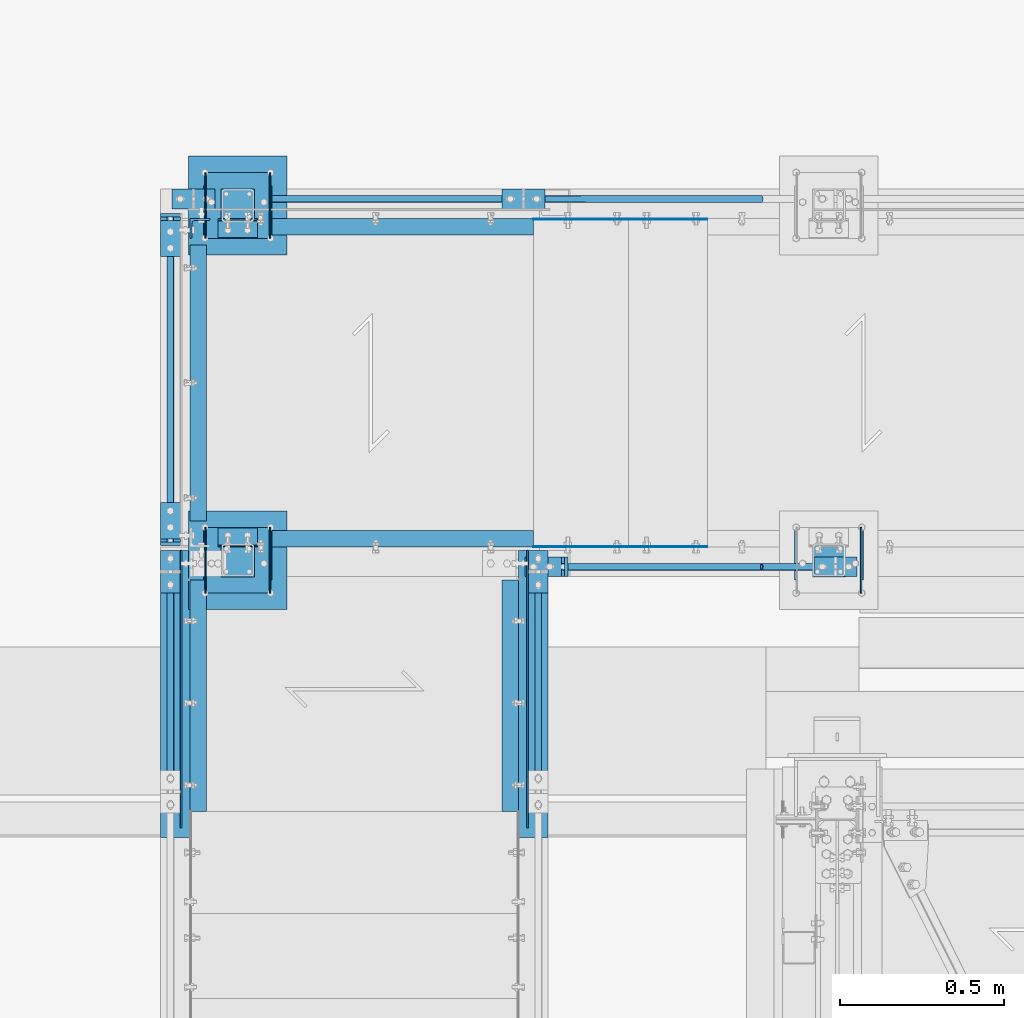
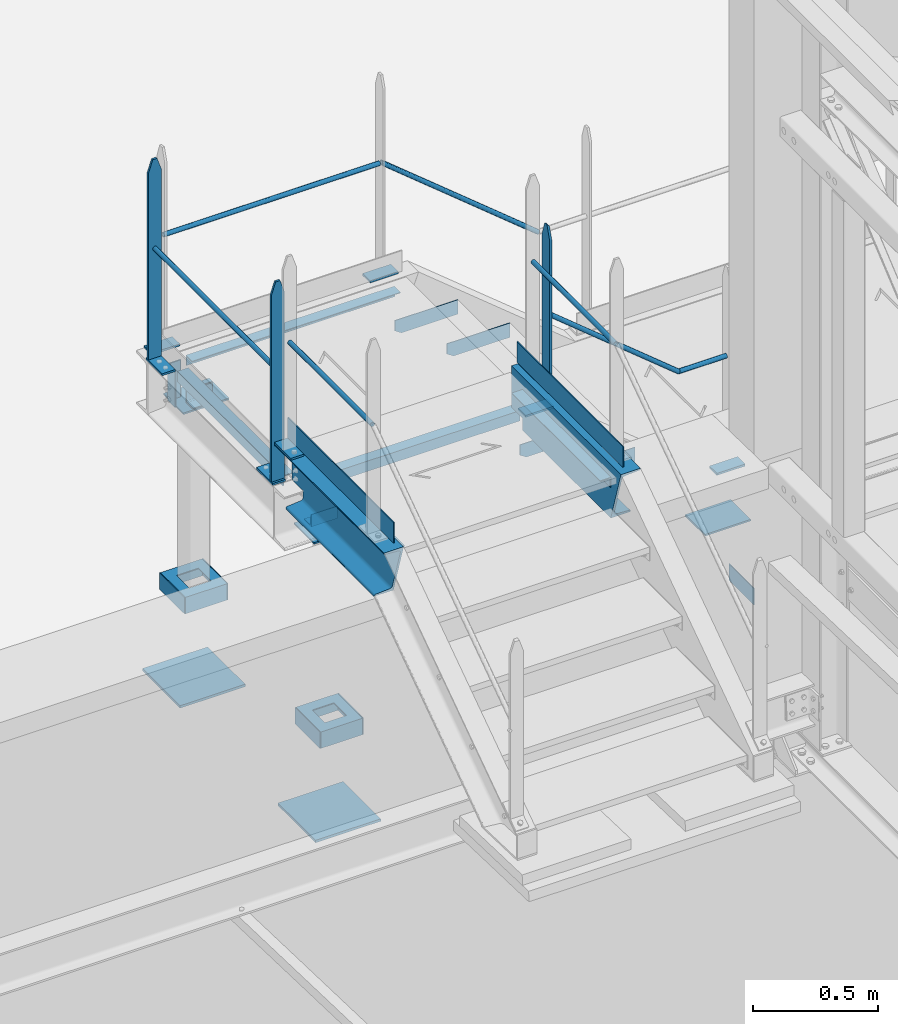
# One storey, part 114 of 362: 44 beams, 2 members, 20 elements without a shape of their own.
"""IFC2X3 building model written with IfcOpenShell, lengths in millimetres."""

import ifcopenshell
import ifcopenshell.guid

model = None  # the IFC model being written
_history = None  # IfcOwnerHistory: only IFC2X3 demands one
_inside = {}  # id of a spatial element -> (the spatial element, [elements in it])
_under = {}  # id of a project, library or spatial element -> (it, [spatial elements below it])
_declared = {}  # id of a project -> (the project, [libraries it declares])
_typed = {}  # id of a type object -> (the type object, [elements of that type])
_made_of = {}  # id of a material, layer set ... -> (it, [elements and type objects made of it])


def new_model(schema):
    """Start an empty IFC model of exactly this schema.

    Asked for "IFC4X3", IfcOpenShell would pick the latest addendum, in which some entities
    have other attributes; the version numbers below select the first issue.
    IFC2X3 requires an IfcOwnerHistory on every rooted entity: one is made here for all.
    """
    global model, _history
    if schema == "IFC4X3":
        model = ifcopenshell.file(schema_version=(4, 3, 0, 0))
    else:
        model = ifcopenshell.file(schema=schema)
    _inside.clear()
    _under.clear()
    _declared.clear()
    _typed.clear()
    _made_of.clear()
    _history = None
    if model.schema == "IFC2X3":
        org = make("IfcOrganization", Name="unknown")
        user = make(
            "IfcPersonAndOrganization",
            ThePerson=make("IfcPerson", FamilyName="unknown"),
            TheOrganization=org,
        )
        app = make(
            "IfcApplication",
            ApplicationDeveloper=org,
            Version="unknown",
            ApplicationFullName="unknown",
            ApplicationIdentifier="unknown",
        )
        _history = make(
            "IfcOwnerHistory",
            OwningUser=user,
            OwningApplication=app,
            ChangeAction="ADDED",
            CreationDate=0,
        )
    return model


def make(cls, **values):
    """One entity of the class cls with the attributes given. An attribute that is None is left unset."""
    return model.create_entity(
        cls, **{name: value for name, value in values.items() if value is not None}
    )


def rooted(cls, **values):
    """An entity with a GlobalId (a new one), such as an element, a storey or a relation."""
    return make(cls, GlobalId=ifcopenshell.guid.new(), OwnerHistory=_history, **values)


def si_unit(unit_type, name, prefix=None):
    """IfcSIUnit, for example si_unit("LENGTHUNIT", "METRE", prefix="MILLI")."""
    return make("IfcSIUnit", UnitType=unit_type, Prefix=prefix, Name=name)


def assignment(units):
    """IfcUnitAssignment: the units of a project."""
    return None if units is None else make("IfcUnitAssignment", Units=units)


def point(xyz):
    """IfcCartesianPoint."""
    return None if xyz is None else make("IfcCartesianPoint", Coordinates=xyz)


def direction(xyz):
    """IfcDirection."""
    return None if xyz is None else make("IfcDirection", DirectionRatios=xyz)


def frame(location, z_axis=None, x_axis=None):
    """IfcAxis2Placement3D, a coordinate frame: its origin and axes. An axis left out is left unset."""
    return make(
        "IfcAxis2Placement3D",
        Location=point(location),
        Axis=direction(z_axis),
        RefDirection=direction(x_axis),
    )


def frame_2d(location, x_axis=None):
    """IfcAxis2Placement2D, a coordinate frame in the plane: its origin and x axis."""
    return make(
        "IfcAxis2Placement2D", Location=point(location), RefDirection=direction(x_axis)
    )


def origin_with_axes():
    """The frame at (0, 0, 0) with the z axis (0, 0, 1) and the x axis (1, 0, 0) written out."""
    return frame((0.0, 0.0, 0.0), z_axis=(0.0, 0.0, 1.0), x_axis=(1.0, 0.0, 0.0))


def origin_2d_with_axis():
    """The frame at (0, 0) in the plane with the x axis (1, 0) written out."""
    return frame_2d((0.0, 0.0), x_axis=(1.0, 0.0))


def place(relative_to, where):
    """IfcLocalPlacement: puts the frame where relative to a parent placement (None: the world)."""
    return make(
        "IfcLocalPlacement", PlacementRelTo=relative_to, RelativePlacement=where
    )


def context(
    kind, dimensions, precision=None, world=None, true_north=None, identifier=None
):
    """IfcGeometricRepresentationContext, for example the 3D "Model" context."""
    return make(
        "IfcGeometricRepresentationContext",
        ContextIdentifier=identifier,
        ContextType=kind,
        CoordinateSpaceDimension=dimensions,
        Precision=precision,
        WorldCoordinateSystem=world,
        TrueNorth=true_north,
    )


def subcontext(parent, identifier, kind, view, scale=None):
    """IfcGeometricRepresentationSubContext, for example "Body" below "Model"."""
    return make(
        "IfcGeometricRepresentationSubContext",
        ContextIdentifier=identifier,
        ContextType=kind,
        ParentContext=parent,
        TargetScale=scale,
        TargetView=view,
    )


def project(units=None, contexts=None):
    """IfcProject with its units and contexts."""
    return rooted(
        "IfcProject",
        Name="project",
        RepresentationContexts=contexts,
        UnitsInContext=assignment(units),
    )


def spatial(cls, under=None, at=None, **own):
    """A site, building, storey or space (cls), placed at a placement, below another one or the project."""
    s = rooted(cls, ObjectPlacement=at, **own)
    if under is not None:
        _under.setdefault(under.id(), (under, []))[1].append(s)
    return s


def polyline(points):
    """IfcPolyline through the points."""
    return make("IfcPolyline", Points=[point(p) for p in points])


def profile(cls, at=None, kind="AREA", **sizes):
    """A parametric profile (cls). Its sizes go by their IFC names, for example OverallWidth=200.0."""
    return make(cls, ProfileType=kind, Position=at, **sizes)


def rectangle(**sizes):
    """IfcRectangleProfileDef."""
    return profile("IfcRectangleProfileDef", **sizes)


def hollow_circle(**sizes):
    """IfcCircleHollowProfileDef."""
    return profile("IfcCircleHollowProfileDef", **sizes)


def l_section(**sizes):
    """IfcLShapeProfileDef."""
    return profile("IfcLShapeProfileDef", **sizes)


def u_section(**sizes):
    """IfcUShapeProfileDef."""
    return profile("IfcUShapeProfileDef", **sizes)


def outline(outer, holes=None, kind="AREA"):
    """IfcArbitraryClosedProfileDef: a profile drawn as a closed curve; with holes, ...WithVoids."""
    if holes is None:
        return make("IfcArbitraryClosedProfileDef", ProfileType=kind, OuterCurve=outer)
    return make(
        "IfcArbitraryProfileDefWithVoids",
        ProfileType=kind,
        OuterCurve=outer,
        InnerCurves=holes,
    )


def extrude(swept, where, along, depth):
    """IfcExtrudedAreaSolid: the profile swept, set in the frame where, extruded along a direction by depth."""
    return make(
        "IfcExtrudedAreaSolid",
        SweptArea=swept,
        Position=where,
        ExtrudedDirection=direction(along),
        Depth=depth,
    )


def boolean(op, a, b):
    """IfcBooleanResult of two solids."""
    return make("IfcBooleanResult", Operator=op, FirstOperand=a, SecondOperand=b)


def clip(a, b, op="DIFFERENCE"):
    """IfcBooleanClippingResult: the solid a cut by the half space b."""
    return make(
        "IfcBooleanClippingResult", Operator=op, FirstOperand=a, SecondOperand=b
    )


def halfspace(plane, agree):
    """IfcHalfSpaceSolid: all space on one side of the plane z = 0 of the frame plane."""
    return make(
        "IfcHalfSpaceSolid",
        BaseSurface=make("IfcPlane", Position=plane),
        AgreementFlag=agree,
    )


def shape(context_of_items, identifier, shape_type, items):
    """IfcShapeRepresentation: the items that make up one representation, for example the "Body"."""
    return make(
        "IfcShapeRepresentation",
        ContextOfItems=context_of_items,
        RepresentationIdentifier=identifier,
        RepresentationType=shape_type,
        Items=items,
    )


def material(Name=None, Category=None):
    """IfcMaterial."""
    return make("IfcMaterial", Name=Name, Category=Category)


def made_of(thing, what):
    """Note that an element or type object is made of a material, layer set ...; save() writes the relation."""
    if what is not None:
        _made_of.setdefault(what.id(), (what, []))[1].append(thing)
    return thing


def type_object(cls, material=None, **own):
    """A type object (cls), such as IfcWallType, which elements share."""
    return made_of(rooted(cls, **own), material)


def element(
    cls,
    number,
    at=None,
    inside=None,
    cuts=None,
    type_object=None,
    material=None,
    context=None,
    identifier="Body",
    shape_type=None,
    held_by="IfcProductDefinitionShape",
    body=None,
    shapes=None,
    **own,
):
    """One element of the class cls, such as IfcWall. Its Tag is "e" and its number.

    at: its placement. inside: the storey or other place that contains it. cuts: it is an
    opening in that element (IfcRelVoidsElement). A single representation is given by context,
    identifier, shape_type and body (its items); several are given by shapes. held_by: the class
    of the entity that holds the representations. save() writes the other relations.
    """
    e = rooted(cls, Tag="e%d" % number, ObjectPlacement=at, **own)
    if body is not None:
        shapes = [shape(context, identifier, shape_type, body)]
    if shapes is not None:
        e.Representation = make(held_by, Representations=shapes)
    if inside is not None:
        _inside.setdefault(inside.id(), (inside, []))[1].append(e)
    if cuts is not None:
        rooted(
            "IfcRelVoidsElement", RelatingBuildingElement=cuts, RelatedOpeningElement=e
        )
    if type_object is not None:
        _typed.setdefault(type_object.id(), (type_object, []))[1].append(e)
    return made_of(e, material)


def aggregate(whole, parts):
    """IfcRelAggregates: a whole, such as a stair, and the parts it consists of."""
    return rooted("IfcRelAggregates", RelatingObject=whole, RelatedObjects=parts)


def save(model, path):
    """Write the relations noted so far, then the file.

    IfcRelAggregates (storeys below a building ...), IfcRelContainedInSpatialStructure (elements
    in a storey), IfcRelDefinesByType, IfcRelAssociatesMaterial and IfcRelDeclares: one each for
    every whole, place, type object, material and project.
    """
    for whole, parts in _under.values():
        aggregate(whole, parts)
    for where, things in _inside.values():
        rooted(
            "IfcRelContainedInSpatialStructure",
            RelatedElements=things,
            RelatingStructure=where,
        )
    for kind, things in _typed.values():
        rooted("IfcRelDefinesByType", RelatedObjects=things, RelatingType=kind)
    for what, things in _made_of.values():
        rooted("IfcRelAssociatesMaterial", RelatedObjects=things, RelatingMaterial=what)
    for by, libraries in _declared.values():
        rooted("IfcRelDeclares", RelatingContext=by, RelatedDefinitions=libraries)
    model.write(path)


model = new_model("IFC2X3")

# Units and contexts
model_context = context("Model", 3, precision=1e-05, world=origin_with_axes())
body_context = subcontext(model_context, "Body", "Model", "MODEL_VIEW")
ifc_project = project(units=[si_unit("LENGTHUNIT", "METRE", prefix="MILLI"), si_unit("AREAUNIT", "SQUARE_METRE"), si_unit("VOLUMEUNIT", "CUBIC_METRE"), si_unit("MASSUNIT", "GRAM", prefix="KILO"), si_unit("TIMEUNIT", "SECOND"), si_unit("PLANEANGLEUNIT", "RADIAN"), si_unit("SOLIDANGLEUNIT", "STERADIAN"), si_unit("THERMODYNAMICTEMPERATUREUNIT", "DEGREE_CELSIUS"), si_unit("LUMINOUSINTENSITYUNIT", "LUMEN")], contexts=[model_context])

# Site, building, storey
site_placement = place(None, origin_with_axes())
site = spatial("IfcSite", under=ifc_project, at=site_placement, Name="Undefined", CompositionType="ELEMENT")
building_placement = place(site_placement, origin_with_axes())
building = spatial("IfcBuilding", under=site, at=building_placement, Name="Undefined", CompositionType="ELEMENT")
storey_placement = place(building_placement, origin_with_axes())
storey = spatial("IfcBuildingStorey", under=building, at=storey_placement, Name="Undefined", CompositionType="ELEMENT", Elevation=0.0)

# Assembly, beams
assembly_1_placement = place(storey_placement, origin_with_axes())
assembly_1 = element("IfcElementAssembly", 1, at=assembly_1_placement, inside=storey, Name="MAIN COURANTE", AssemblyPlace="NOTDEFINED", PredefinedType="NOTDEFINED")
ifc_material_1 = material(Name="Undefined/S235-E24")
beam_type_1 = type_object("IfcBeamType", Name="PL10*60", PredefinedType="NOTDEFINED")
beam_1_placement = place(assembly_1_placement, frame((33460.0061849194, 15970.0000882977, 8705.00015961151), z_axis=(0.0, -1.0, 0.0), x_axis=(-1.0, 0.0, 0.0)))
beam_1 = element("IfcBeam", 2, at=beam_1_placement, type_object=beam_type_1, material=ifc_material_1, Name="PLATINE", ObjectType="PL10*60", context=body_context, shape_type="SweptSolid", body=[
    extrude(rectangle(XDim=10.0, YDim=60.0, at=origin_2d_with_axis()), frame((130.0, 0.0, 0.0), z_axis=(-1.0, 0.0, 0.0), x_axis=(0.0, -1.0, 0.0)), (0.0, 0.0, 1.0), 130.0),
])
beam_2_placement = place(assembly_1_placement, frame((33445.0061849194, 15970.0000882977, 9582.39164232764), z_axis=(0.0, 1.0, 0.0), x_axis=(0.0, 0.0, -1.0)))
beam_2 = element("IfcBeam", 3, at=beam_2_placement, type_object=beam_type_1, material=ifc_material_1, Name="MONTANT", ObjectType="PL10*60", context=body_context, shape_type="Clipping", body=[
    clip(clip(clip(extrude(rectangle(XDim=10.0, YDim=60.0, at=origin_2d_with_axis()), frame((872.391482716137, 0.0, 0.0), z_axis=(-1.0, 0.0, 0.0), x_axis=(0.0, -1.0, 0.0)), (0.0, 0.0, 1.0), 876.53), halfspace(frame((-119.99851575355, -5.0, -30.0), z_axis=(-0.316227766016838, 0.0, 0.948683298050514), x_axis=(0.0, 1.0, 0.0)), False)), halfspace(frame((60.0014842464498, -5.0, -30.0), z_axis=(-0.316227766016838, 0.0, -0.948683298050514), x_axis=(0.0, 1.0, 0.0)), False)), halfspace(frame((7.28321514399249, -8.88829265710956, 0.0), z_axis=(0.773488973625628, 0.633809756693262, 0.0), x_axis=(0.0, 0.0, 1.0)), True)),
])
beam_3_placement = place(assembly_1_placement, frame((34340.0061849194, 15970.0000882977, 8114.9999407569), z_axis=(0.0, -1.0, 0.0), x_axis=(-1.0, 0.0, 0.0)))
beam_3 = element("IfcBeam", 4, at=beam_3_placement, type_object=beam_type_1, material=ifc_material_1, Name="PLATINE", ObjectType="PL10*60", context=body_context, shape_type="SweptSolid", body=[
    extrude(rectangle(XDim=10.0, YDim=60.0, at=origin_2d_with_axis()), frame((130.0, 0.0, 0.0), z_axis=(-1.0, 0.0, 0.0), x_axis=(0.0, -1.0, 0.0)), (0.0, 0.0, 1.0), 130.0),
])

assembly_2_placement = place(storey_placement, origin_with_axes())
assembly_2 = element("IfcElementAssembly", 5, at=assembly_2_placement, inside=storey, Name="MAIN COURANTE", AssemblyPlace="NOTDEFINED", PredefinedType="NOTDEFINED")
beam_4_placement = place(assembly_2_placement, frame((33390.0061849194, 17089.9938659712, 8705.00000001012), z_axis=(0.0, 1.0, 0.0), x_axis=(-1.0, 0.0, 0.0)))
beam_4 = element("IfcBeam", 6, at=beam_4_placement, type_object=beam_type_1, material=ifc_material_1, Name="PLATINE", ObjectType="PL10*60", context=body_context, shape_type="SweptSolid", body=[
    extrude(rectangle(XDim=10.0, YDim=60.0, at=origin_2d_with_axis()), frame((130.0, 0.0, 0.0), z_axis=(-1.0, 0.0, 0.0), x_axis=(0.0, -1.0, 0.0)), (0.0, 0.0, 1.0), 130.0),
])
beam_5_placement = place(assembly_2_placement, frame((32384.9961849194, 17089.9938659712, 8705.00000001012), z_axis=(0.0, 1.0, 0.0), x_axis=(-1.0, 0.0, 0.0)))
beam_5 = element("IfcBeam", 7, at=beam_5_placement, type_object=beam_type_1, material=ifc_material_1, Name="PLATINE", ObjectType="PL10*60", context=body_context, shape_type="SweptSolid", body=[
    extrude(rectangle(XDim=10.0, YDim=60.0, at=origin_2d_with_axis()), frame((130.0, 0.0, 0.0), z_axis=(-1.0, 0.0, 0.0), x_axis=(0.0, -1.0, 0.0)), (0.0, 0.0, 1.0), 130.0),
])

assembly_3_placement = place(storey_placement, origin_with_axes())
assembly_3 = element("IfcElementAssembly", 8, at=assembly_3_placement, inside=storey, Name="MAIN COURANTE", AssemblyPlace="NOTDEFINED", PredefinedType="NOTDEFINED")
beam_6_placement = place(assembly_3_placement, frame((32249.9863365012, 16165.0036560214, 8705.00000001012), z_axis=(-1.0, 0.0, 0.0), x_axis=(0.0, -1.0, 0.0)))
beam_6 = element("IfcBeam", 9, at=beam_6_placement, type_object=beam_type_1, material=ifc_material_1, Name="PLATINE", ObjectType="PL10*60", context=body_context, shape_type="SweptSolid", body=[
    extrude(rectangle(XDim=10.0, YDim=60.0, at=origin_2d_with_axis()), frame((130.0, 0.0, 0.0), z_axis=(-1.0, 0.0, 0.0), x_axis=(0.0, -1.0, 0.0)), (0.0, 0.0, 1.0), 130.0),
])
beam_7_placement = place(assembly_3_placement, frame((32249.9862112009, 16050.0036560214, 9677.59999848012), z_axis=(-0.99999999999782, -2.08799999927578e-06, 0.0), x_axis=(0.0, 0.0, -1.0)))
beam_7 = element("IfcBeam", 10, at=beam_7_placement, type_object=beam_type_1, material=ifc_material_1, Name="MONTANT", ObjectType="PL10*60", context=body_context, shape_type="Clipping", body=[
    clip(clip(extrude(rectangle(XDim=10.0, YDim=60.0, at=origin_2d_with_axis()), frame((967.59999845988, 0.0, 0.0), z_axis=(-1.0, 0.0, 0.0), x_axis=(0.0, -1.0, 0.0)), (0.0, 0.0, 1.0), 967.6), halfspace(frame((-119.999937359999, -4.99999999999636, -30.0), z_axis=(-0.316227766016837, -1.98085072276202e-06, 0.948683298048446), x_axis=(-6.26399999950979e-06, 0.999999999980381, -3.63797880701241e-15)), False)), halfspace(frame((60.0, -5.0, -30.0), z_axis=(-0.316227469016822, 1.98084886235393e-06, -0.948683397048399), x_axis=(6.26399999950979e-06, 0.999999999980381, -3.63797880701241e-15)), False)),
])
beam_8_placement = place(assembly_3_placement, frame((32249.9863365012, 17044.9977309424, 8705.00000001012), z_axis=(-1.0, 0.0, 0.0), x_axis=(0.0, -1.0, 0.0)))
beam_8 = element("IfcBeam", 11, at=beam_8_placement, type_object=beam_type_1, material=ifc_material_1, Name="PLATINE", ObjectType="PL10*60", context=body_context, shape_type="SweptSolid", body=[
    extrude(rectangle(XDim=10.0, YDim=60.0, at=origin_2d_with_axis()), frame((130.0, 0.0, 0.0), z_axis=(-1.0, 0.0, 0.0), x_axis=(0.0, -1.0, 0.0)), (0.0, 0.0, 1.0), 130.0),
])
beam_9_placement = place(assembly_3_placement, frame((32249.9862112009, 17029.9977309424, 9677.59999848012), z_axis=(-0.99999999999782, -2.08799999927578e-06, 0.0), x_axis=(0.0, 0.0, -1.0)))
beam_9 = element("IfcBeam", 12, at=beam_9_placement, type_object=beam_type_1, material=ifc_material_1, Name="MONTANT", ObjectType="PL10*60", context=body_context, shape_type="Clipping", body=[
    clip(clip(extrude(rectangle(XDim=10.0, YDim=60.0, at=origin_2d_with_axis()), frame((967.59999845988, 0.0, 0.0), z_axis=(-1.0, 0.0, 0.0), x_axis=(0.0, -1.0, 0.0)), (0.0, 0.0, 1.0), 967.6), halfspace(frame((-119.999937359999, -4.99999999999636, -30.0), z_axis=(-0.316227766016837, -1.98085072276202e-06, 0.948683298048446), x_axis=(-6.26399999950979e-06, 0.999999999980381, -3.63797880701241e-15)), False)), halfspace(frame((60.0, -5.0, -30.0), z_axis=(-0.316227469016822, 1.98084886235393e-06, -0.948683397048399), x_axis=(6.26399999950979e-06, 0.999999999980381, -3.63797880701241e-15)), False)),
])

# Assembly, beam
assembly_4_placement = place(storey_placement, origin_with_axes())
assembly_4 = element("IfcElementAssembly", 13, at=assembly_4_placement, inside=storey, Name="MAIN COURANTE", AssemblyPlace="NOTDEFINED", PredefinedType="NOTDEFINED")
beam_10_placement = place(assembly_4_placement, frame((32249.9863365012, 16020.003622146, 8915.0), z_axis=(-1.0, 0.0, 0.0), x_axis=(0.0, -1.0, 0.0)))
beam_10 = element("IfcBeam", 14, at=beam_10_placement, type_object=beam_type_1, material=ifc_material_1, Name="PLATINE", ObjectType="PL10*60", context=body_context, shape_type="SweptSolid", body=[
    extrude(rectangle(XDim=10.0, YDim=60.0, at=origin_2d_with_axis()), frame((130.0, 0.0, 0.0), z_axis=(-1.0, 0.0, 0.0), x_axis=(0.0, -1.0, 0.0)), (0.0, 0.0, 1.0), 130.0),
])

assembly_5_placement = place(storey_placement, origin_with_axes())
assembly_5 = element("IfcElementAssembly", 15, at=assembly_5_placement, inside=storey, Name="MAIN COURANTE", AssemblyPlace="NOTDEFINED", PredefinedType="NOTDEFINED")
beam_11_placement = place(assembly_5_placement, frame((33369.9936634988, 16019.9996684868, 8915.0), z_axis=(1.0, 0.0, 0.0), x_axis=(0.0, -1.0, 0.0)))
beam_11 = element("IfcBeam", 16, at=beam_11_placement, type_object=beam_type_1, material=ifc_material_1, Name="PLATINE", ObjectType="PL10*60", context=body_context, shape_type="SweptSolid", body=[
    extrude(rectangle(XDim=10.0, YDim=60.0, at=origin_2d_with_axis()), frame((130.0, 0.0, 0.0), z_axis=(-1.0, 0.0, 0.0), x_axis=(0.0, -1.0, 0.0)), (0.0, 0.0, 1.0), 130.0),
])

# Beam
beam_type_2 = type_object("IfcBeamType", Name="TUBE-21.3*2", PredefinedType="NOTDEFINED")
beam_12_placement = place(assembly_1_placement, frame((34050.3145397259, 15970.0002031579, 8653.80000001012), z_axis=(0.0, -1.0, 0.0), x_axis=(1.0, 0.0, 0.0)))
beam_12 = element("IfcBeam", 17, at=beam_12_placement, type_object=beam_type_2, material=ifc_material_1, Name="LISSE", ObjectType="TUBE-21.3*2", context=body_context, shape_type="Clipping", body=[
    clip(extrude(hollow_circle(Radius=10.64999962, WallThickness=2.0, at=origin_2d_with_axis()), frame((219.691645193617, 1.81898940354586e-12, 0.0), z_axis=(-1.0, 0.0, 0.0), x_axis=(0.0, -1.0, 0.0)), (0.0, 0.0, 1.0), 223.54), halfspace(frame((3.80609846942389, 10.6499996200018, 0.000112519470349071), z_axis=(0.941671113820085, -0.336534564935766, -5.79127735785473e-07), x_axis=(-0.336534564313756, -0.941671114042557, 0.0)), True)),
])

beam_13_placement = place(assembly_2_placement, frame((32324.9961849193, 17089.9946261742, 9243.80000001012), z_axis=(0.0, 1.0, 0.0), x_axis=(1.0, 0.0, 0.0)))
beam_13 = element("IfcBeam", 18, at=beam_13_placement, type_object=beam_type_2, material=ifc_material_1, Name="LISSE", ObjectType="TUBE-21.3*2", context=body_context, shape_type="SweptSolid", body=[
    extrude(hollow_circle(Radius=10.64999962, WallThickness=2.0, at=origin_2d_with_axis()), frame((995.010000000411, 0.0, 5.26753908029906e-20), z_axis=(-1.0, 0.0, 0.0), x_axis=(0.0, -1.0, 0.0)), (0.0, 0.0, 1.0), 995.01),
])

beam_14_placement = place(assembly_5_placement, frame((33369.9936634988, 15290.0038659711, 9438.8), z_axis=(0.999999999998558, -1.69800000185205e-06, 0.0), x_axis=(1.69800000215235e-06, 0.999999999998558, 0.0)))
beam_14 = element("IfcBeam", 19, at=beam_14_placement, type_object=beam_type_2, material=ifc_material_1, Name="LISSE", ObjectType="TUBE-21.3*2", context=body_context, shape_type="SweptSolid", body=[
    extrude(hollow_circle(Radius=10.64999962, WallThickness=2.0, at=origin_2d_with_axis()), frame((659.995802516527, 1.81898940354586e-12, -1.3975954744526e-19), z_axis=(-1.0, 0.0, 0.0), x_axis=(0.0, -1.0, 0.0)), (0.0, 0.0, 1.0), 660.0),
])

beam_15_placement = place(assembly_3_placement, frame((32249.9863365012, 16055.0036560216, 9243.80000001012), z_axis=(-0.99999999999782, -2.08799999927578e-06, 0.0), x_axis=(-1.15500000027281e-06, 0.999999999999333, 0.0)))
beam_15 = element("IfcBeam", 20, at=beam_15_placement, type_object=beam_type_2, material=ifc_material_1, Name="LISSE", ObjectType="TUBE-21.3*2", context=body_context, shape_type="SweptSolid", body=[
    extrude(hollow_circle(Radius=10.64999962, WallThickness=2.0, at=origin_2d_with_axis()), frame((969.994074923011, -1.81898940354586e-12, 0.0), z_axis=(-1.0, 0.0, 0.0), x_axis=(0.0, -1.0, 0.0)), (0.0, 0.0, 1.0), 969.99),
])

aggregate(assembly_3, [beam_6, beam_7, beam_15, beam_8, beam_9])

beam_16_placement = place(assembly_4_placement, frame((32249.9863365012, 15290.0038659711, 9438.8), z_axis=(-0.99999999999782, -2.08799999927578e-06, 0.0), x_axis=(-1.15500000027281e-06, 0.999999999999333, 0.0)))
beam_16 = element("IfcBeam", 21, at=beam_16_placement, type_object=beam_type_2, material=ifc_material_1, Name="LISSE", ObjectType="TUBE-21.3*2", context=body_context, shape_type="SweptSolid", body=[
    extrude(hollow_circle(Radius=10.64999962, WallThickness=2.0, at=origin_2d_with_axis()), frame((659.999756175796, -1.81898940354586e-12, -1.39760384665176e-19), z_axis=(-1.0, 0.0, 0.0), x_axis=(0.0, -1.0, 0.0)), (0.0, 0.0, 1.0), 660.0),
])

# Member
member_type = type_object("IfcMemberType", Name="TUBE-21.3*2", PredefinedType="NOTDEFINED")
member_1_placement = place(assembly_1_placement, frame((34050.3145397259, 15970.0040747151, 8653.80000001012), z_axis=(0.0, 1.0, 0.0), x_axis=(-0.773488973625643, 0.0, 0.633809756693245)))
member_1 = element("IfcMember", 22, at=member_1_placement, type_object=member_type, material=ifc_material_1, Name="LISSE", ObjectType="TUBE-21.3*2", context=body_context, shape_type="Clipping", body=[
    clip(clip(extrude(hollow_circle(Radius=10.64999962, WallThickness=2.0, at=origin_2d_with_axis()), frame((794.709650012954, 0.0, 0.0), z_axis=(-1.0, 0.0, 0.0), x_axis=(0.0, -1.0, 0.0)), (0.0, 0.0, 1.0), 813.31), halfspace(frame((787.048146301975, 13.3552820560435, -0.00398641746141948), z_axis=(-0.773488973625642, 0.633809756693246, 0.0), x_axis=(-0.633809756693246, -0.773488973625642, 0.0)), True)), halfspace(frame((3.80609846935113, 10.6499996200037, -0.00398641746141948), z_axis=(-0.941671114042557, 0.336534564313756, 0.0), x_axis=(-0.336534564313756, -0.941671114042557, 0.0)), False)),
])

aggregate(assembly_1, [beam_1, beam_2, beam_3, member_1, beam_12])

member_2_placement = place(assembly_2_placement, frame((34050.3145397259, 17089.9898795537, 8653.80000001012), z_axis=(0.0, -1.0, 0.0), x_axis=(-0.773488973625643, 0.0, 0.633809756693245)))
member_2 = element("IfcMember", 23, at=member_2_placement, type_object=member_type, material=ifc_material_1, Name="LISSE", ObjectType="TUBE-21.3*2", context=body_context, shape_type="Clipping", body=[
    clip(clip(extrude(hollow_circle(Radius=10.64999962, WallThickness=2.0, at=origin_2d_with_axis()), frame((949.850840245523, 0.0, 0.0), z_axis=(-1.0, 0.0, 0.0), x_axis=(0.0, -1.0, 0.0)), (0.0, 0.0, 1.0), 968.46), halfspace(frame((942.913936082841, -14.2395691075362, -0.00398641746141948), z_axis=(-0.773488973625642, -0.633809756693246, 0.0), x_axis=(0.0, 0.0, -1.0)), True)), halfspace(frame((3.80609846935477, -10.6499996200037, -0.00398641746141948), z_axis=(-0.941671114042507, -0.336534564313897, 0.0), x_axis=(0.0, 0.0, -1.0)), False)),
])

aggregate(assembly_2, [beam_13, beam_4, member_2, beam_5])

# Assembly, beam
assembly_6_placement = place(storey_placement, origin_with_axes())
assembly_6 = element("IfcElementAssembly", 24, at=assembly_6_placement, inside=storey, AssemblyPlace="NOTDEFINED", PredefinedType="NOTDEFINED")
beam_type_3 = type_object("IfcBeamType", Name="PL12*300", PredefinedType="NOTDEFINED")
beam_17_placement = place(assembly_6_placement, frame((32605.0000000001, 15839.9999136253, 7056.0), z_axis=(0.0, 0.0, -1.0), x_axis=(-1.0, 0.0, 0.0)))
beam_17 = element("IfcBeam", 25, at=beam_17_placement, type_object=beam_type_3, material=ifc_material_1, Name="PLATINE", ObjectType="PL12*300", context=body_context, shape_type="SweptSolid", body=[
    extrude(outline(polyline([(0.0, 0.0), (300.0, 0.0), (300.0, 300.0), (0.0, 300.0), (0.0, 0.0)])), frame((0.0, 0.0, -6.0), z_axis=(0.0, 0.0, 1.0), x_axis=(1.0, 0.0, 0.0)), (0.0, 0.0, 1.0), 12.0),
])

assembly_7_placement = place(storey_placement, origin_with_axes())
assembly_7 = element("IfcElementAssembly", 26, at=assembly_7_placement, inside=storey, AssemblyPlace="NOTDEFINED", PredefinedType="NOTDEFINED")
beam_18_placement = place(assembly_7_placement, frame((32605.0000000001, 17219.9996684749, 7056.0), z_axis=(0.0, 0.0, 1.0), x_axis=(-1.0, 0.0, 0.0)))
beam_18 = element("IfcBeam", 27, at=beam_18_placement, type_object=beam_type_3, material=ifc_material_1, Name="PLATINE", ObjectType="PL12*300", context=body_context, shape_type="SweptSolid", body=[
    extrude(outline(polyline([(0.0, 0.0), (300.0, 0.0), (300.0, 300.0), (0.0, 300.0), (0.0, 0.0)])), frame((0.0, 0.0, -6.0), z_axis=(0.0, 0.0, 1.0), x_axis=(1.0, 0.0, 0.0)), (0.0, 0.0, 1.0), 12.0),
])

# Beam
beam_type_4 = type_object("IfcBeamType", Name="PL100*5", PredefinedType="NOTDEFINED")
beam_19_placement = place(assembly_4_placement, frame((32282.4987221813, 16020.0036847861, 8970.0), z_axis=(0.0, 0.0, -1.0), x_axis=(0.0, -1.0, 0.0)))
beam_19 = element("IfcBeam", 28, at=beam_19_placement, type_object=beam_type_4, material=ifc_material_1, Name="PLINTHE", ObjectType="PL100*5", context=body_context, shape_type="SweptSolid", body=[
    extrude(rectangle(XDim=5.0, YDim=100.0, at=origin_2d_with_axis()), frame((845.00389373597, 0.0, 0.0), z_axis=(-1.0, 0.0, 0.0), x_axis=(0.0, -1.0, 0.0)), (0.0, 0.0, 1.0), 845.0),
])

aggregate(assembly_4, [beam_16, beam_19, beam_10])

beam_20_placement = place(assembly_5_placement, frame((33337.4812778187, 16019.9997311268, 8970.0), z_axis=(0.0, 0.0, -1.0), x_axis=(0.0, -1.0, 0.0)))
beam_20 = element("IfcBeam", 29, at=beam_20_placement, type_object=beam_type_4, material=ifc_material_1, Name="PLINTHE", ObjectType="PL100*5", context=body_context, shape_type="SweptSolid", body=[
    extrude(rectangle(XDim=5.0, YDim=100.0, at=origin_2d_with_axis()), frame((844.999940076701, 0.0, 0.0), z_axis=(-1.0, 0.0, 0.0), x_axis=(0.0, -1.0, 0.0)), (0.0, 0.0, 1.0), 845.0),
])

aggregate(assembly_5, [beam_14, beam_20, beam_11])

beam_type_5 = type_object("IfcBeamType", Name="PL8*160", PredefinedType="NOTDEFINED")
beam_21_placement = place(assembly_6_placement, frame((32560.0000000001, 15930.0004325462, 8436.00011661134), z_axis=(0.0, 0.0, -1.0), x_axis=(-1.0, 0.0, 0.0)))
beam_21 = element("IfcBeam", 30, at=beam_21_placement, type_object=beam_type_5, material=ifc_material_1, Name="PLATINE", ObjectType="PL8*160", context=body_context, shape_type="SweptSolid", body=[
    extrude(outline(polyline([(0.0, 0.0), (210.0, 0.0), (210.0, 159.999481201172), (0.0, 159.999481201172), (0.0, 0.0)])), frame((0.0, 0.0, -4.0), z_axis=(0.0, 0.0, 1.0), x_axis=(1.0, 0.0, 0.0)), (0.0, 0.0, 1.0), 8.0),
])

# Assembly, beam
assembly_8_placement = place(storey_placement, origin_with_axes())
assembly_8 = element("IfcElementAssembly", 31, at=assembly_8_placement, inside=storey, AssemblyPlace="NOTDEFINED", PredefinedType="NOTDEFINED")
beam_22_placement = place(assembly_8_placement, frame((34360.0000000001, 15930.0004325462, 7846.00001160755), z_axis=(0.0, 0.0, -1.0), x_axis=(-1.0, 0.0, 0.0)))
beam_22 = element("IfcBeam", 32, at=beam_22_placement, type_object=beam_type_5, material=ifc_material_1, Name="PLATINE", ObjectType="PL8*160", context=body_context, shape_type="SweptSolid", body=[
    extrude(outline(polyline([(0.0, 0.0), (210.0, 0.0), (210.0, 159.999481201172), (0.0, 159.999481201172), (0.0, 0.0)])), frame((0.0, 0.0, -4.0), z_axis=(0.0, 0.0, 1.0), x_axis=(1.0, 0.0, 0.0)), (0.0, 0.0, 1.0), 8.0),
])

# Beam
beam_23_placement = place(assembly_7_placement, frame((32560.0000000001, 17129.9991495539, 8436.00011661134), z_axis=(0.0, 0.0, 1.0), x_axis=(-1.0, 0.0, 0.0)))
beam_23 = element("IfcBeam", 33, at=beam_23_placement, type_object=beam_type_5, material=ifc_material_1, Name="PLATINE", ObjectType="PL8*160", context=body_context, shape_type="SweptSolid", body=[
    extrude(outline(polyline([(0.0, 0.0), (210.0, 0.0), (210.0, 159.999481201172), (0.0, 159.999481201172), (0.0, 0.0)])), frame((0.0, 0.0, -4.0), z_axis=(0.0, 0.0, 1.0), x_axis=(1.0, 0.0, 0.0)), (0.0, 0.0, 1.0), 8.0),
])

beam_type_6 = type_object("IfcBeamType", Name="PL4*80", PredefinedType="NOTDEFINED")
beam_24_placement = place(assembly_6_placement, frame((32553.0000000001, 16089.9999136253, 7500.0), z_axis=(0.0, 0.0, 1.0), x_axis=(0.0, -1.0, 0.0)))
beam_24 = element("IfcBeam", 34, at=beam_24_placement, type_object=beam_type_6, material=ifc_material_1, Name="BORD COLLERETTE", ObjectType="PL4*80", context=body_context, shape_type="SweptSolid", body=[
    extrude(rectangle(XDim=4.0, YDim=80.0, at=origin_2d_with_axis()), frame((200.0, 0.0, 0.0), z_axis=(-1.0, 0.0, 0.0), x_axis=(0.0, -1.0, 0.0)), (0.0, 0.0, 1.0), 200.0),
])

beam_25_placement = place(assembly_8_placement, frame((34353.0000000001, 16089.9999136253, 7500.0), z_axis=(0.0, 0.0, 1.0), x_axis=(0.0, -1.0, 0.0)))
beam_25 = element("IfcBeam", 35, at=beam_25_placement, type_object=beam_type_6, material=ifc_material_1, Name="BORD COLLERETTE", ObjectType="PL4*80", context=body_context, shape_type="SweptSolid", body=[
    extrude(rectangle(XDim=4.0, YDim=80.0, at=origin_2d_with_axis()), frame((200.0, 0.0, 0.0), z_axis=(-1.0, 0.0, 0.0), x_axis=(0.0, -1.0, 0.0)), (0.0, 0.0, 1.0), 200.0),
])

aggregate(assembly_8, [beam_22, beam_25])

beam_26_placement = place(assembly_6_placement, frame((32357.0000000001, 16089.9999136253, 7500.0), z_axis=(0.0, 0.0, 1.0), x_axis=(0.0, -1.0, 0.0)))
beam_26 = element("IfcBeam", 36, at=beam_26_placement, type_object=beam_type_6, material=ifc_material_1, Name="BORD COLLERETTE", ObjectType="PL4*80", context=body_context, shape_type="SweptSolid", body=[
    extrude(rectangle(XDim=4.0, YDim=80.0, at=origin_2d_with_axis()), frame((200.0, 0.0, 0.0), z_axis=(-1.0, 0.0, 0.0), x_axis=(0.0, -1.0, 0.0)), (0.0, 0.0, 1.0), 200.0),
])

beam_27_placement = place(assembly_7_placement, frame((32553.0000000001, 16969.9996684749, 7500.0), z_axis=(0.0, 0.0, 1.0), x_axis=(0.0, 1.0, 0.0)))
beam_27 = element("IfcBeam", 37, at=beam_27_placement, type_object=beam_type_6, material=ifc_material_1, Name="BORD COLLERETTE", ObjectType="PL4*80", context=body_context, shape_type="SweptSolid", body=[
    extrude(rectangle(XDim=4.0, YDim=80.0, at=origin_2d_with_axis()), frame((200.0, 0.0, 0.0), z_axis=(-1.0, 0.0, 0.0), x_axis=(0.0, -1.0, 0.0)), (0.0, 0.0, 1.0), 200.0),
])

beam_28_placement = place(assembly_7_placement, frame((32357.0000000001, 16969.9996684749, 7500.0), z_axis=(0.0, 0.0, 1.0), x_axis=(0.0, 1.0, 0.0)))
beam_28 = element("IfcBeam", 38, at=beam_28_placement, type_object=beam_type_6, material=ifc_material_1, Name="BORD COLLERETTE", ObjectType="PL4*80", context=body_context, shape_type="SweptSolid", body=[
    extrude(rectangle(XDim=4.0, YDim=80.0, at=origin_2d_with_axis()), frame((200.0, 0.0, 0.0), z_axis=(-1.0, 0.0, 0.0), x_axis=(0.0, -1.0, 0.0)), (0.0, 0.0, 1.0), 200.0),
])

beam_type_7 = type_object("IfcBeamType", Name="UPF-200*80*4", PredefinedType="NOTDEFINED")
beam_29_placement = place(assembly_6_placement, frame((32551.0000000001, 15989.9999136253, 7500.0), z_axis=(0.0, 1.0, 0.0), x_axis=(-1.0, 0.0, 0.0)))
beam_29 = element("IfcBeam", 39, at=beam_29_placement, type_object=beam_type_7, material=ifc_material_1, Name="COLLERETTE", ObjectType="UPF-200*80*4", context=body_context, shape_type="CSG", body=[
    boolean("DIFFERENCE", extrude(u_section(Depth=200.0, FlangeWidth=80.0, WebThickness=4.0, FlangeThickness=4.0, at=origin_2d_with_axis()), frame((192.0, 0.0, 0.0), z_axis=(-1.0, 0.0, 0.0), x_axis=(0.0, -1.0, 0.0)), (0.0, 0.0, 1.0), 192.0), extrude(outline(polyline([(0.0, 0.0), (101.0, 0.0), (101.0, 101.0), (0.0, 101.0), (0.0, 0.0)])), frame((146.5, -42.5, 50.5), z_axis=(0.0, 1.0, 0.0), x_axis=(0.0, 0.0, -1.0)), (0.0, 0.0, 1.0), 85.0)),
])

aggregate(assembly_6, [beam_21, beam_24, beam_26, beam_29, beam_17])

beam_30_placement = place(assembly_7_placement, frame((32359.0000000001, 17069.9996684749, 7500.0), z_axis=(0.0, -1.0, 0.0), x_axis=(1.0, 0.0, 0.0)))
beam_30 = element("IfcBeam", 40, at=beam_30_placement, type_object=beam_type_7, material=ifc_material_1, Name="COLLERETTE", ObjectType="UPF-200*80*4", context=body_context, shape_type="CSG", body=[
    boolean("DIFFERENCE", extrude(u_section(Depth=200.0, FlangeWidth=80.0, WebThickness=4.0, FlangeThickness=4.0, at=origin_2d_with_axis()), frame((192.0, 0.0, 0.0), z_axis=(-1.0, 0.0, 0.0), x_axis=(0.0, -1.0, 0.0)), (0.0, 0.0, 1.0), 192.0), extrude(outline(polyline([(0.0, 0.0), (101.0, 0.0), (101.0, 101.0), (0.0, 101.0), (0.0, 0.0)])), frame((45.5, -42.5, -50.5), z_axis=(0.0, 1.0, 0.0), x_axis=(0.0, 0.0, 1.0)), (0.0, 0.0, 1.0), 85.0)),
])

aggregate(assembly_7, [beam_23, beam_27, beam_28, beam_30, beam_18])

# Assembly, beam
assembly_9_placement = place(storey_placement, origin_with_axes())
assembly_9 = element("IfcElementAssembly", 41, at=assembly_9_placement, inside=storey, Name="SUPPORT", AssemblyPlace="NOTDEFINED", PredefinedType="NOTDEFINED")
beam_type_8 = type_object("IfcBeamType", Name="L50*5", PredefinedType="NOTDEFINED")
beam_31_placement = place(assembly_9_placement, frame((33284.9814327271, 15930.0058468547, 8825.0), z_axis=(-1.0, 0.0, 0.0), x_axis=(0.0, -1.0, 0.0)))
beam_31 = element("IfcBeam", 42, at=beam_31_placement, type_object=beam_type_8, material=ifc_material_1, Name="SUPPORT", ObjectType="L50*5", context=body_context, shape_type="SweptSolid", body=[
    extrude(l_section(Depth=50.0, Width=50.0, Thickness=5.0, FilletRadius=7.0, EdgeRadius=3.5, at=origin_2d_with_axis()), frame((704.999999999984, 0.0, 0.0), z_axis=(-1.0, 0.0, 0.0), x_axis=(0.0, -1.0, 0.0)), (0.0, 0.0, 1.0), 705.0),
])
aggregate(assembly_9, [beam_31])

assembly_10_placement = place(storey_placement, origin_with_axes())
assembly_10 = element("IfcElementAssembly", 43, at=assembly_10_placement, inside=storey, Name="SUPPORT", AssemblyPlace="NOTDEFINED", PredefinedType="NOTDEFINED")
beam_32_placement = place(assembly_10_placement, frame((32335.0061849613, 15225.0058468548, 8825.0), z_axis=(1.0, 0.0, 0.0), x_axis=(0.0, 1.0, 0.0)))
beam_32 = element("IfcBeam", 44, at=beam_32_placement, type_object=beam_type_8, material=ifc_material_1, Name="SUPPORT", ObjectType="L50*5", context=body_context, shape_type="SweptSolid", body=[
    extrude(l_section(Depth=50.0, Width=50.0, Thickness=5.0, FilletRadius=7.0, EdgeRadius=3.5, at=origin_2d_with_axis()), frame((704.999999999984, 0.0, 0.0), z_axis=(-1.0, 0.0, 0.0), x_axis=(0.0, -1.0, 0.0)), (0.0, 0.0, 1.0), 705.0),
])
aggregate(assembly_10, [beam_32])

assembly_11_placement = place(storey_placement, origin_with_axes())
assembly_11 = element("IfcElementAssembly", 45, at=assembly_11_placement, inside=storey, Name="SUPPORT", AssemblyPlace="NOTDEFINED", PredefinedType="NOTDEFINED")
beam_33_placement = place(assembly_11_placement, frame((33354.9999902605, 16055.006211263, 8645.0), z_axis=(0.0, 1.0, 0.0), x_axis=(-1.0, 0.0, 0.0)))
beam_33 = element("IfcBeam", 46, at=beam_33_placement, type_object=beam_type_8, material=ifc_material_1, Name="SUPPORT", ObjectType="L50*5", context=body_context, shape_type="SweptSolid", body=[
    extrude(l_section(Depth=50.0, Width=50.0, Thickness=5.0, FilletRadius=7.0, EdgeRadius=3.5, at=origin_2d_with_axis()), frame((959.999229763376, 0.0, -1.98523187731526e-22), z_axis=(-1.0, 0.0, 0.0), x_axis=(0.0, -1.0, 0.0)), (0.0, 0.0, 1.0), 960.0),
])
aggregate(assembly_11, [beam_33])

assembly_12_placement = place(storey_placement, origin_with_axes())
assembly_12 = element("IfcElementAssembly", 47, at=assembly_12_placement, inside=storey, Name="SUPPORT", AssemblyPlace="NOTDEFINED", PredefinedType="NOTDEFINED")
beam_34_placement = place(assembly_12_placement, frame((32335.0061849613, 16109.9933715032, 8645.0), z_axis=(1.0, 0.0, 0.0), x_axis=(0.0, 1.0, 0.0)))
beam_34 = element("IfcBeam", 48, at=beam_34_placement, type_object=beam_type_8, material=ifc_material_1, Name="SUPPORT", ObjectType="L50*5", context=body_context, shape_type="SweptSolid", body=[
    extrude(l_section(Depth=50.0, Width=50.0, Thickness=5.0, FilletRadius=7.0, EdgeRadius=3.5, at=origin_2d_with_axis()), frame((839.999999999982, 0.0, 0.0), z_axis=(-1.0, 0.0, 0.0), x_axis=(0.0, -1.0, 0.0)), (0.0, 0.0, 1.0), 840.0),
])
aggregate(assembly_12, [beam_34])

assembly_13_placement = place(storey_placement, origin_with_axes())
assembly_13 = element("IfcElementAssembly", 49, at=assembly_13_placement, inside=storey, Name="SUPPORT", AssemblyPlace="NOTDEFINED", PredefinedType="NOTDEFINED")
beam_35_placement = place(assembly_13_placement, frame((32395.0007604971, 17004.9933717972, 8645.0), z_axis=(0.0, -1.0, 0.0), x_axis=(1.0, 0.0, 0.0)))
beam_35 = element("IfcBeam", 50, at=beam_35_placement, type_object=beam_type_8, material=ifc_material_1, Name="SUPPORT", ObjectType="L50*5", context=body_context, shape_type="SweptSolid", body=[
    extrude(l_section(Depth=50.0, Width=50.0, Thickness=5.0, FilletRadius=7.0, EdgeRadius=3.5, at=origin_2d_with_axis()), frame((959.999229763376, 0.0, -1.98523187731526e-22), z_axis=(-1.0, 0.0, 0.0), x_axis=(0.0, -1.0, 0.0)), (0.0, 0.0, 1.0), 960.0),
])
aggregate(assembly_13, [beam_35])

assembly_14_placement = place(storey_placement, origin_with_axes())
assembly_14 = element("IfcElementAssembly", 51, at=assembly_14_placement, inside=storey, AssemblyPlace="NOTDEFINED", PredefinedType="NOTDEFINED")
ifc_material_2 = material(Name="Undefined/S275-E28")
beam_type_9 = type_object("IfcBeamType", Name="UPN260", PredefinedType="NOTDEFINED")
beam_36_placement = place(assembly_14_placement, frame((33355.0056513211, 16019.9995858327, 8780.0), z_axis=(0.0, 0.0, -1.0), x_axis=(-1.83600000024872e-06, -0.999999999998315, 0.0)))
beam_36 = element("IfcBeam", 52, at=beam_36_placement, type_object=beam_type_9, material=ifc_material_2, Name="LIMON", ObjectType="UPN260", context=body_context, shape_type="CSG", body=[
    boolean("DIFFERENCE", boolean("DIFFERENCE", extrude(u_section(Depth=260.0, FlangeWidth=90.0, WebThickness=10.0, FlangeThickness=14.0, FilletRadius=14.0, EdgeRadius=7.0, FlangeSlope=0.0798299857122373, at=origin_2d_with_axis()), frame((874.295008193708, 1.8513916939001e-19, 0.0), z_axis=(-1.0, 0.0, 0.0), x_axis=(0.0, -1.0, 0.0)), (0.0, 0.0, 1.0), 874.3), extrude(outline(polyline([(0.0, 0.0), (90.0001678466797, 0.0), (90.0001678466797, 100.0), (0.0, 100.0), (0.0, 0.0)])), frame((89.9958784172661, -47.9984209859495, 160.0), z_axis=(1.69800000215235e-06, 0.999999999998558, 0.0), x_axis=(0.0, 0.0, -1.0)), (0.0, 0.0, 1.0), 96.0)), halfspace(frame((792.671784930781, 545.010387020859, 130.000000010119), z_axis=(0.954513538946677, -1.75248685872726e-06, 0.29816757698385), x_axis=(1.69800000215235e-06, 0.999999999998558, 0.0)), False)),
])
aggregate(assembly_14, [beam_36])

assembly_15_placement = place(storey_placement, origin_with_axes())
assembly_15 = element("IfcElementAssembly", 53, at=assembly_15_placement, inside=storey, AssemblyPlace="NOTDEFINED", PredefinedType="NOTDEFINED")
beam_37_placement = place(assembly_15_placement, frame((32265.0039852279, 15146.1108193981, 8779.99999998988), z_axis=(0.0, 0.0, -1.0), x_axis=(-1.15500000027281e-06, 0.999999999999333, 0.0)))
beam_37 = element("IfcBeam", 54, at=beam_37_placement, type_object=beam_type_9, material=ifc_material_2, Name="LIMON", ObjectType="UPN260", context=body_context, shape_type="CSG", body=[
    boolean("DIFFERENCE", boolean("DIFFERENCE", extrude(u_section(Depth=260.0, FlangeWidth=90.0, WebThickness=10.0, FlangeThickness=14.0, FilletRadius=14.0, EdgeRadius=7.0, FlangeSlope=0.0798299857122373, at=origin_2d_with_axis()), frame((873.892720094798, 0.0, 1.81898940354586e-12), z_axis=(-1.0, 0.0, 0.0), x_axis=(0.0, -1.0, 0.0)), (0.0, 0.0, 1.0), 874.3), extrude(outline(polyline([(0.0, 0.0), (90.0001678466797, 0.0), (90.0001678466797, 100.0), (0.0, 100.0), (0.0, 0.0)])), frame((783.892696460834, 48.0006366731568, 159.999999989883), z_axis=(1.83599999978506e-06, -0.999999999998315, 0.0), x_axis=(0.0, 0.0, -1.0)), (0.0, 0.0, 1.0), 96.0)), halfspace(frame((-0.000917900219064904, 544.989823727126, -130.000000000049), z_axis=(0.954513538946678, 1.75248685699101e-06, -0.298167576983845), x_axis=(1.83599999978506e-06, -0.999999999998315, 0.0)), True)),
])
aggregate(assembly_15, [beam_37])

# Assembly, beams
assembly_16_placement = place(storey_placement, origin_with_axes())
assembly_16 = element("IfcElementAssembly", 55, at=assembly_16_placement, inside=storey, Name="MARCHE", AssemblyPlace="NOTDEFINED", PredefinedType="NOTDEFINED")
beam_type_10 = type_object("IfcBeamType", Name="TOLE3*70", PredefinedType="NOTDEFINED")
beam_38_placement = place(assembly_16_placement, frame((33644.9999902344, 17028.4999136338, 8503.3299407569), z_axis=(0.0, 1.0, 0.0), x_axis=(0.0, 0.0, -1.0)))
beam_38 = element("IfcBeam", 56, at=beam_38_placement, type_object=beam_type_10, material=ifc_material_1, Name="PLAT MARCHE", ObjectType="TOLE3*70", context=body_context, shape_type="SweptSolid", body=[
    extrude(outline(polyline([(0.0, 0.0), (70.0, 0.0), (70.0, 260.0), (50.0, 290.0), (0.0, 290.0), (0.0, 0.0)])), frame((0.0, 0.0, -1.5), z_axis=(0.0, 0.0, 1.0), x_axis=(1.0, 0.0, 0.0)), (0.0, 0.0, 1.0), 3.0),
])
beam_39_placement = place(assembly_16_placement, frame((33644.9999902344, 16031.4996684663, 8503.3299407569), z_axis=(0.0, 1.0, 0.0), x_axis=(0.0, 0.0, -1.0)))
beam_39 = element("IfcBeam", 57, at=beam_39_placement, type_object=beam_type_10, material=ifc_material_1, Name="PLAT MARCHE", ObjectType="TOLE3*70", context=body_context, shape_type="SweptSolid", body=[
    extrude(outline(polyline([(0.0, 0.0), (70.0, 0.0), (70.0, 260.0), (50.0, 290.0), (0.0, 290.0), (0.0, 0.0)])), frame((0.0, 0.0, -1.5), z_axis=(0.0, 0.0, 1.0), x_axis=(1.0, 0.0, 0.0)), (0.0, 0.0, 1.0), 3.0),
])
aggregate(assembly_16, [beam_38, beam_39])

assembly_17_placement = place(storey_placement, origin_with_axes())
assembly_17 = element("IfcElementAssembly", 58, at=assembly_17_placement, inside=storey, Name="MARCHE", AssemblyPlace="NOTDEFINED", PredefinedType="NOTDEFINED")
beam_40_placement = place(assembly_17_placement, frame((33884.9999902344, 17028.4999136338, 8306.6699407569), z_axis=(0.0, 1.0, 0.0), x_axis=(0.0, 0.0, -1.0)))
beam_40 = element("IfcBeam", 59, at=beam_40_placement, type_object=beam_type_10, material=ifc_material_1, Name="PLAT MARCHE", ObjectType="TOLE3*70", context=body_context, shape_type="SweptSolid", body=[
    extrude(outline(polyline([(0.0, 0.0), (70.0, 0.0), (70.0, 260.0), (50.0, 290.0), (0.0, 290.0), (0.0, 0.0)])), frame((0.0, 0.0, -1.5), z_axis=(0.0, 0.0, 1.0), x_axis=(1.0, 0.0, 0.0)), (0.0, 0.0, 1.0), 3.0),
])
beam_41_placement = place(assembly_17_placement, frame((33884.9999902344, 16031.4996684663, 8306.6699407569), z_axis=(0.0, 1.0, 0.0), x_axis=(0.0, 0.0, -1.0)))
beam_41 = element("IfcBeam", 60, at=beam_41_placement, type_object=beam_type_10, material=ifc_material_1, Name="PLAT MARCHE", ObjectType="TOLE3*70", context=body_context, shape_type="SweptSolid", body=[
    extrude(outline(polyline([(0.0, 0.0), (70.0, 0.0), (70.0, 260.0), (50.0, 290.0), (0.0, 290.0), (0.0, 0.0)])), frame((0.0, 0.0, -1.5), z_axis=(0.0, 0.0, 1.0), x_axis=(1.0, 0.0, 0.0)), (0.0, 0.0, 1.0), 3.0),
])
aggregate(assembly_17, [beam_40, beam_41])

# Assembly, beam
assembly_18_placement = place(storey_placement, origin_with_axes())
assembly_18 = element("IfcElementAssembly", 61, at=assembly_18_placement, inside=storey, AssemblyPlace="NOTDEFINED", PredefinedType="NOTDEFINED")
beam_type_11 = type_object("IfcBeamType", Name="L60*6", PredefinedType="NOTDEFINED")
beam_42_placement = place(assembly_18_placement, frame((32515.0000000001, 16059.9999136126, 8470.00004576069), z_axis=(0.0, 0.0, 1.0), x_axis=(-1.0, 0.0, 0.0)))
beam_42 = element("IfcBeam", 62, at=beam_42_placement, type_object=beam_type_11, material=ifc_material_1, Name="ATTACHE", ObjectType="L60*6", context=body_context, shape_type="SweptSolid", body=[
    extrude(l_section(Depth=60.0, Width=60.0, Thickness=6.0, FilletRadius=8.0, EdgeRadius=4.0, at=origin_2d_with_axis()), frame((120.0, 0.0, 0.0), z_axis=(-1.0, 0.0, 0.0), x_axis=(0.0, -1.0, 0.0)), (0.0, 0.0, 1.0), 120.0),
])
aggregate(assembly_18, [beam_42])

assembly_19_placement = place(storey_placement, origin_with_axes())
assembly_19 = element("IfcElementAssembly", 63, at=assembly_19_placement, inside=storey, AssemblyPlace="NOTDEFINED", PredefinedType="NOTDEFINED")
beam_43_placement = place(assembly_19_placement, frame((32395.0000000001, 16999.9996684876, 8470.00004576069), z_axis=(0.0, 0.0, 1.0), x_axis=(1.0, 0.0, 0.0)))
beam_43 = element("IfcBeam", 64, at=beam_43_placement, type_object=beam_type_11, material=ifc_material_1, Name="ATTACHE", ObjectType="L60*6", context=body_context, shape_type="SweptSolid", body=[
    extrude(l_section(Depth=60.0, Width=60.0, Thickness=6.0, FilletRadius=8.0, EdgeRadius=4.0, at=origin_2d_with_axis()), frame((120.0, 0.0, 0.0), z_axis=(-1.0, 0.0, 0.0), x_axis=(0.0, -1.0, 0.0)), (0.0, 0.0, 1.0), 120.0),
])
aggregate(assembly_19, [beam_43])

assembly_20_placement = place(storey_placement, origin_with_axes())
assembly_20 = element("IfcElementAssembly", 65, at=assembly_20_placement, inside=storey, AssemblyPlace="NOTDEFINED", PredefinedType="NOTDEFINED")
beam_44_placement = place(assembly_20_placement, frame((32340.0061851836, 16999.9933718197, 8660.0), z_axis=(1.0, 0.0, 0.0), x_axis=(0.0, 0.0, -1.0)))
beam_44 = element("IfcBeam", 66, at=beam_44_placement, type_object=beam_type_11, material=ifc_material_1, Name="ATTACHE", ObjectType="L60*6", context=body_context, shape_type="SweptSolid", body=[
    extrude(l_section(Depth=60.0, Width=60.0, Thickness=6.0, FilletRadius=8.0, EdgeRadius=4.0, at=origin_2d_with_axis()), frame((180.0, 0.0, 0.0), z_axis=(-1.0, 0.0, 0.0), x_axis=(0.0, -1.0, 0.0)), (0.0, 0.0, 1.0), 180.0),
])
aggregate(assembly_20, [beam_44])

save(model, "model.ifc")
